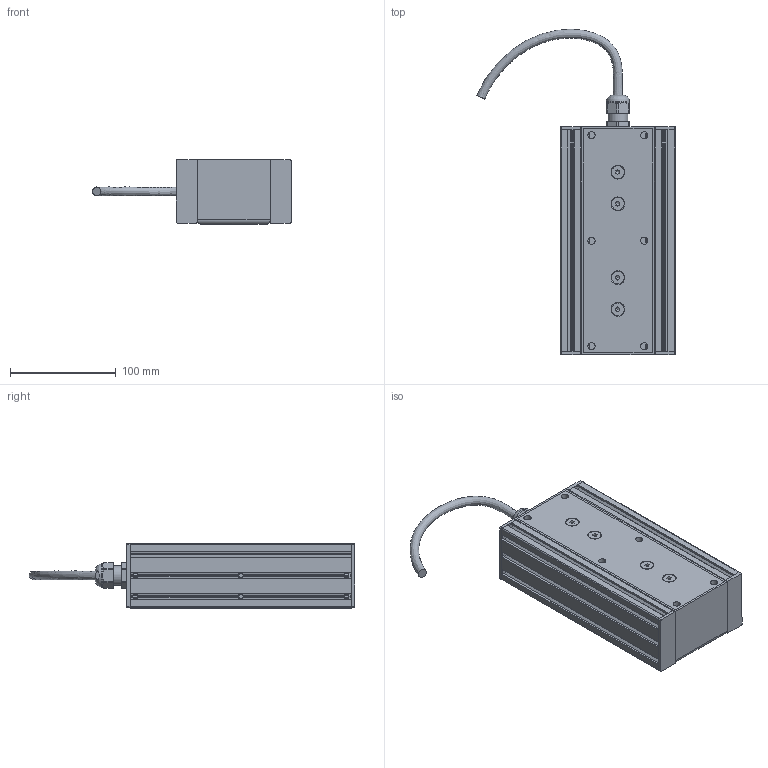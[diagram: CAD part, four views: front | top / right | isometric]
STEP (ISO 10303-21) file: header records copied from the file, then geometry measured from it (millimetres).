
FILE_DESCRIPTION(/* description */ (''),/* implementation_level */ '2;1');
FILE_NAME(/* name */ 'ELFQ-FA-ST002.step',/* time_stamp */ '2024-05-24T12:58:40+09:00',/* author */ (''),/* organization */ (''),/* preprocessor_version */ 'ST-DEVELOPER v20',/* originating_system */ 'Autodesk Translation Framework v13.14.0.145',/* authorisation */ '');
FILE_SCHEMA (('AUTOMOTIVE_DESIGN { 1 0 10303 214 3 1 1 }'));
Length unit declared in the file: millimetre
Products named in the file (46): 19103-1A(ELFQ-FA-ST002); 18995-3-01; LBNR5; LBNR5_1; LBNR5_2; LBNR5_3; LBNR5_4; LBNR5_5; LBNR5_6; LBNR5_7; LBNR5_8; LBNR5_9; LBNR5_10; LBNR5_11; LBNR5_12; BOX-SFB5-15 v2(ミラー); SKINTOP ST PG 11      Art. Nr. 53015020(F=4); SKINTOP ST PG 11      Art. Nr. 53015020(F=4)_1; SKINTOP GMP-GL PG 11      Art. Nr. 53019020; SKINTOP GMP-GL PG 11      Art. Nr. 53019020_1; UL2464-OHFR-PCVV-19AWGx4C; 18995-3-02; SFB6-15; 18995-3-04; 18995-3-03; 18995-3-04_1; BOX-SFB5-15; 18995-3-05; HFC5-2060-S; HFC5-2060-S_1; HFC5-2060-S v1(ミラー); HFC5-2060-S_2; SSH-M5-10; SSH-M5-10_1; SSH-M5-10_2; SSH-M5-10_3; SSH-M5-10_4; SSH-M5-10_5; SSH-M5-10_6; 18995-3-05 v2(ミラー)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
Assembly tree (80 placements, depth 4):
  19103-1A(ELFQ-FA-ST002)
    18995-3-01
      LBNR5
        LBNR5_12
      LBNR5_1
        LBNR5_12
      LBNR5_2
        LBNR5_12
      LBNR5_3
        LBNR5_12
      LBNR5_4
        LBNR5_12
      LBNR5_5
        LBNR5_12
      LBNR5_6
        LBNR5_12
      LBNR5_7
        LBNR5_12
      LBNR5_8
        LBNR5_12
      LBNR5_9
        LBNR5_12
      LBNR5_10
        LBNR5_12
      LBNR5_11
        LBNR5_12
      BOX-SFB5-15  x4
      BOX-SFB5-15 v2(ミラー)  x4
      SKINTOP ST PG 11      Art. Nr. 53015020(F=4)
        SKINTOP ST PG 11      Art. Nr. 53015020(F=4)_1
      SKINTOP GMP-GL PG 11      Art. Nr. 53019020
        SKINTOP GMP-GL PG 11      Art. Nr. 53019020_1
      UL2464-OHFR-PCVV-19AWGx4C
    18995-3-02
      SFB6-15  x4
      18995-3-03  x2
      18995-3-04
        BOX-SFB5-15  x2
      18995-3-04_1
        BOX-SFB5-15  x2
    18995-3-05
      HFC5-2060-S
        HFC5-2060-S_1
      HFC5-2060-S v1(ミラー)
        HFC5-2060-S_2
      SSH-M5-10
        SSH-M5-10_6
      SSH-M5-10_1
        SSH-M5-10_6
      SSH-M5-10_2
        SSH-M5-10_6
      SSH-M5-10_3
        SSH-M5-10_6
      SSH-M5-10_4
        SSH-M5-10_6
      SSH-M5-10_5
        SSH-M5-10_6
    18995-3-05 v2(ミラー)
      HFC5-2060-S v1(ミラー)_1
        HFC5-2060-S(ミラー)
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Bounding box: 188.37 x 308.53 x 61 mm (x, y, z)
Volume: 595171 mm3; surface area: 401293 mm2
Topology: 25 solids, 972 shells, 1910 faces, 6802 edges, 5755 vertices
Faces by surface type: plane 1135, cylinder 527, cone 241, torus 5, bspline 2
Full cylindrical faces by diameter (mm): 1.5 x12, 4 x1, 4.134 x12, 4.2 x18, 4.234 x12, 5 x36, 5.035 x4, 6 x28, 6.779 x6, 7 x4, 8.5 x1, 9 x12, 10 x24, 12 x4, 17.4 x1, 17.67 x2, 18.6 x2, 19 x1, 22 x1, 26 x1
Entity records: 55841 total; most frequent: CARTESIAN_POINT 13959, DIRECTION 8487, ORIENTED_EDGE 6644, EDGE_CURVE 4571, VERTEX_POINT 3835, AXIS2_PLACEMENT_3D 2840, LINE 2807, VECTOR 2807
